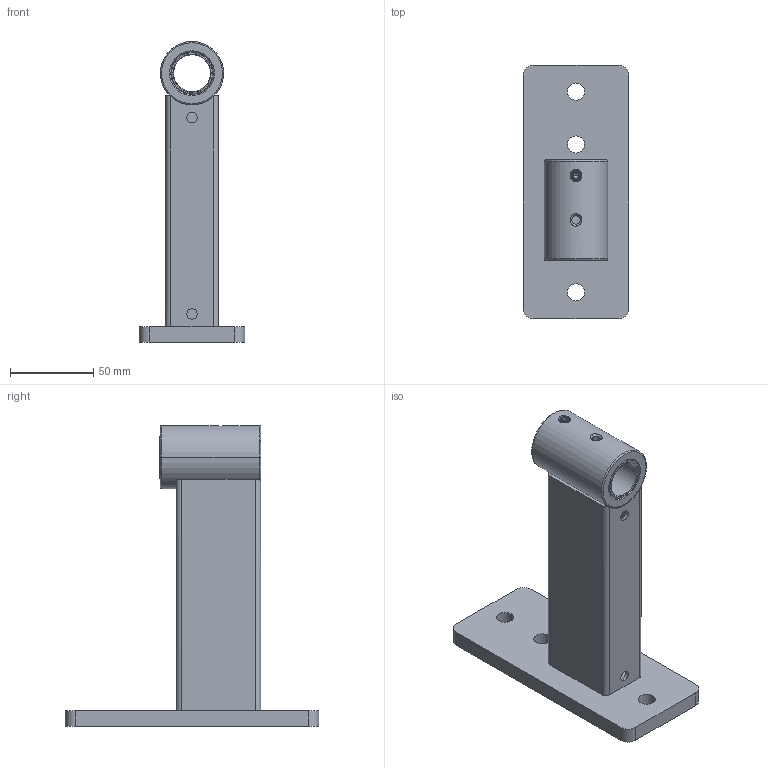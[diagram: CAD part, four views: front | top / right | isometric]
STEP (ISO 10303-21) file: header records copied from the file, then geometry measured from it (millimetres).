
FILE_DESCRIPTION (( 'STEP AP203' ), '1' );
FILE_NAME ('70-0095-00 REV 3, NARROW WALL MOUNT, 6in EXT, BLACK.STEP', '2018-03-28T18:55:50', ( '' ), ( '' ), 'SwSTEP 2.0', 'SolidWorks 2012', '' );
FILE_SCHEMA (( 'CONFIG_CONTROL_DESIGN' ));
Length unit declared in the file: inch
Products named in the file (8): 71-0217-00 REV 1, PLATE, NARROW WALL MOUNT; 71-0091-00 REV 1, HOUSING, WALL MOUNT, 6in EXTENSION; 71-2113-00 REV 1, HOUSING, BEARING, TALL, 1.5OD_MACHINE; 016-008-00, OILITE PLUS BEARING, 0.876 id x 1.002 od x 1.25 lg; 016-007-00, OILITE PLUS BEARING, 0.876 id x 1.002 od x 0.75 lg; 70-0095-0X REV 2, STUD MOUNT, 6in EXT, WELDMENT; 70-0095-00 REV 3,  NARROW WALL MOUNT, 6in EXT, BLACK; 007-036-00, SHSS, 1''4-28, .25L_007-036-00
Assembly tree (7 placements, depth 3):
  70-0095-00 REV 3,  NARROW WALL MOUNT, 6in EXT, BLACK
    70-0095-0X REV 2, STUD MOUNT, 6in EXT, WELDMENT
      71-0217-00 REV 1, PLATE, NARROW WALL MOUNT
      71-0091-00 REV 1, HOUSING, WALL MOUNT, 6in EXTENSION
      71-2113-00 REV 1, HOUSING, BEARING, TALL, 1.5OD_MACHINE
    016-007-00, OILITE PLUS BEARING, 0.876 id x 1.002 od x 0.75 lg
    016-008-00, OILITE PLUS BEARING, 0.876 id x 1.002 od x 1.25 lg
    007-036-00, SHSS, 1''4-28, .25L_007-036-00
Bounding box: 63.5 x 152.4 x 180.99 mm (x, y, z)
Volume: 177817.1 mm3; surface area: 87977.3 mm2
Topology: 6 solids, 6 shells, 137 faces, 325 edges, 196 vertices
Faces by surface type: cylinder 54, plane 36, cone 24, torus 20, bspline 3
Entity records: 6288 total; most frequent: CARTESIAN_POINT 2285, DIRECTION 695, ORIENTED_EDGE 642, EDGE_CURVE 321, AXIS2_PLACEMENT_3D 286, VERTEX_POINT 196, EDGE_LOOP 159, CIRCLE 141
